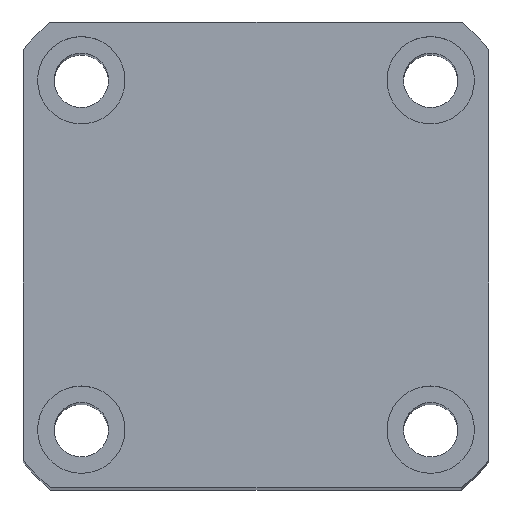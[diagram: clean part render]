
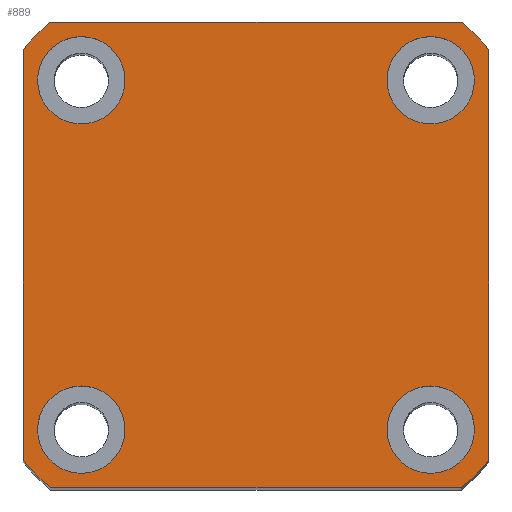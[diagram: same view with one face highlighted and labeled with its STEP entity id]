
A CAD part, top view. The second image highlights one B-rep face of the part: STEP entity #889.
In plain terms, the highlighted planar face has unit normal (0, 0, 1) as drawn and (1, 0, 0) by its records, which use the part's own axes.
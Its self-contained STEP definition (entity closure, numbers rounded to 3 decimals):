
#48 = CIRCLE ( 'NONE', #5477, 4.5 ) ;
#120 = ORIENTED_EDGE ( 'NONE', *, *, #2710, .T. ) ;
#153 = CARTESIAN_POINT ( 'NONE',  ( 125., 18., 18. ) ) ;
#170 = DIRECTION ( 'NONE',  ( 1., 0., 0. ) ) ;
#219 = ORIENTED_EDGE ( 'NONE', *, *, #5464, .F. ) ;
#247 = VERTEX_POINT ( 'NONE', #4443 ) ;
#268 = CARTESIAN_POINT ( 'NONE',  ( 125., -24., 24. ) ) ;
#269 = DIRECTION ( 'NONE',  ( 0., 0., -1. ) ) ;
#284 = ORIENTED_EDGE ( 'NONE', *, *, #6028, .F. ) ;
#423 = CARTESIAN_POINT ( 'NONE',  ( 125., 0., 0. ) ) ;
#511 = AXIS2_PLACEMENT_3D ( 'NONE', #3924, #170, #4511 ) ;
#545 = VERTEX_POINT ( 'NONE', #7750 ) ;
#554 = ORIENTED_EDGE ( 'NONE', *, *, #1791, .F. ) ;
#614 = FACE_BOUND ( 'NONE', #3714, .T. ) ;
#633 = VERTEX_POINT ( 'NONE', #1214 ) ;
#652 = ORIENTED_EDGE ( 'NONE', *, *, #770, .T. ) ;
#661 = VERTEX_POINT ( 'NONE', #3248 ) ;
#757 = DIRECTION ( 'NONE',  ( 0., 0., -1. ) ) ;
#766 = CARTESIAN_POINT ( 'NONE',  ( 125., 0., 0. ) ) ;
#770 = EDGE_CURVE ( 'NONE', #7634, #2930, #2932, .T. ) ;
#870 = DIRECTION ( 'NONE',  ( 0., 0., -1. ) ) ;
#889 = ADVANCED_FACE ( 'NONE', ( #5529, #614, #3970, #7159, #2308 ), #3796, .T. ) ;
#945 = DIRECTION ( 'NONE',  ( 1., 0., 0. ) ) ;
#1027 = DIRECTION ( 'NONE',  ( 0., 0., -1. ) ) ;
#1074 = EDGE_CURVE ( 'NONE', #7715, #2425, #4243, .T. ) ;
#1091 = CARTESIAN_POINT ( 'NONE',  ( 125., 18., 22.5 ) ) ;
#1120 = AXIS2_PLACEMENT_3D ( 'NONE', #423, #4753, #1027 ) ;
#1188 = AXIS2_PLACEMENT_3D ( 'NONE', #7655, #4032, #269 ) ;
#1208 = CARTESIAN_POINT ( 'NONE',  ( 125., 18., -13.5 ) ) ;
#1214 = CARTESIAN_POINT ( 'NONE',  ( 125., -18., 13.5 ) ) ;
#1332 = CARTESIAN_POINT ( 'NONE',  ( 125., -18., 18. ) ) ;
#1421 = ORIENTED_EDGE ( 'NONE', *, *, #4785, .T. ) ;
#1452 = AXIS2_PLACEMENT_3D ( 'NONE', #2675, #6883, #3291 ) ;
#1457 = VERTEX_POINT ( 'NONE', #6593 ) ;
#1465 = CIRCLE ( 'NONE', #1452, 32. ) ;
#1568 = CIRCLE ( 'NONE', #511, 4.5 ) ;
#1615 = AXIS2_PLACEMENT_3D ( 'NONE', #2157, #6389, #2829 ) ;
#1658 = CIRCLE ( 'NONE', #7717, 4.5 ) ;
#1791 = EDGE_CURVE ( 'NONE', #2022, #1457, #1568, .T. ) ;
#1985 = DIRECTION ( 'NONE',  ( 0., 0., -1. ) ) ;
#2022 = VERTEX_POINT ( 'NONE', #3009 ) ;
#2146 = ORIENTED_EDGE ( 'NONE', *, *, #7099, .F. ) ;
#2157 = CARTESIAN_POINT ( 'NONE',  ( 125., -18., 18. ) ) ;
#2188 = CIRCLE ( 'NONE', #7670, 4.5 ) ;
#2308 = FACE_OUTER_BOUND ( 'NONE', #2557, .T. ) ;
#2372 = ORIENTED_EDGE ( 'NONE', *, *, #4798, .T. ) ;
#2390 = LINE ( 'NONE', #4655, #7232 ) ;
#2425 = VERTEX_POINT ( 'NONE', #1091 ) ;
#2503 = CARTESIAN_POINT ( 'NONE',  ( 125., 18., -18. ) ) ;
#2557 = EDGE_LOOP ( 'NONE', ( #652, #120, #6841, #2372, #1421, #3061, #6587, #3090 ) ) ;
#2637 = CARTESIAN_POINT ( 'NONE',  ( 125., 18., 13.5 ) ) ;
#2648 = CARTESIAN_POINT ( 'NONE',  ( 125., 24., -24. ) ) ;
#2662 = DIRECTION ( 'NONE',  ( 0., 0., 1. ) ) ;
#2675 = CARTESIAN_POINT ( 'NONE',  ( 125., 0., 0. ) ) ;
#2688 = ORIENTED_EDGE ( 'NONE', *, *, #1074, .F. ) ;
#2710 = EDGE_CURVE ( 'NONE', #2930, #4356, #3790, .T. ) ;
#2784 = AXIS2_PLACEMENT_3D ( 'NONE', #153, #4492, #757 ) ;
#2819 = CIRCLE ( 'NONE', #7554, 4.5 ) ;
#2829 = DIRECTION ( 'NONE',  ( 0., 0., -1. ) ) ;
#2930 = VERTEX_POINT ( 'NONE', #7507 ) ;
#2932 = LINE ( 'NONE', #2648, #4703 ) ;
#2960 = EDGE_CURVE ( 'NONE', #5785, #247, #5807, .T. ) ;
#2961 = EDGE_LOOP ( 'NONE', ( #2688, #2146 ) ) ;
#3009 = CARTESIAN_POINT ( 'NONE',  ( 125., -18., -22.5 ) ) ;
#3061 = ORIENTED_EDGE ( 'NONE', *, *, #7077, .T. ) ;
#3090 = ORIENTED_EDGE ( 'NONE', *, *, #5987, .T. ) ;
#3139 = DIRECTION ( 'NONE',  ( 0., 0., -1. ) ) ;
#3248 = CARTESIAN_POINT ( 'NONE',  ( 125., -21.166, 24. ) ) ;
#3291 = DIRECTION ( 'NONE',  ( 0., 0., -1. ) ) ;
#3386 = CIRCLE ( 'NONE', #2784, 4.5 ) ;
#3489 = CIRCLE ( 'NONE', #1615, 4.5 ) ;
#3545 = AXIS2_PLACEMENT_3D ( 'NONE', #3958, #4048, #4242 ) ;
#3603 = CARTESIAN_POINT ( 'NONE',  ( 125., 18., -18. ) ) ;
#3641 = CARTESIAN_POINT ( 'NONE',  ( 125., -18., -18. ) ) ;
#3714 = EDGE_LOOP ( 'NONE', ( #284, #5373 ) ) ;
#3790 = CIRCLE ( 'NONE', #1120, 32. ) ;
#3796 = PLANE ( 'NONE',  #4477 ) ;
#3856 = VECTOR ( 'NONE', #2662, 1000. ) ;
#3888 = DIRECTION ( 'NONE',  ( 1., 0., 0. ) ) ;
#3924 = CARTESIAN_POINT ( 'NONE',  ( 125., -18., -18. ) ) ;
#3958 = CARTESIAN_POINT ( 'NONE',  ( 125., 18., 18. ) ) ;
#3962 = CARTESIAN_POINT ( 'NONE',  ( 125., 18., -22.5 ) ) ;
#3970 = FACE_BOUND ( 'NONE', #6113, .T. ) ;
#4014 = CARTESIAN_POINT ( 'NONE',  ( 125., 24., 21.166 ) ) ;
#4032 = DIRECTION ( 'NONE',  ( 1., 0., 0. ) ) ;
#4043 = ORIENTED_EDGE ( 'NONE', *, *, #4209, .F. ) ;
#4048 = DIRECTION ( 'NONE',  ( 1., 0., 0. ) ) ;
#4209 = EDGE_CURVE ( 'NONE', #5497, #6447, #1658, .T. ) ;
#4213 = DIRECTION ( 'NONE',  ( 0., 0., -1. ) ) ;
#4242 = DIRECTION ( 'NONE',  ( 0., 0., -1. ) ) ;
#4243 = CIRCLE ( 'NONE', #3545, 4.5 ) ;
#4244 = DIRECTION ( 'NONE',  ( 0., 0., -1. ) ) ;
#4245 = VECTOR ( 'NONE', #870, 1000. ) ;
#4299 = AXIS2_PLACEMENT_3D ( 'NONE', #4677, #945, #5269 ) ;
#4356 = VERTEX_POINT ( 'NONE', #4886 ) ;
#4443 = CARTESIAN_POINT ( 'NONE',  ( 125., -24., -21.166 ) ) ;
#4477 = AXIS2_PLACEMENT_3D ( 'NONE', #766, #3888, #6474 ) ;
#4492 = DIRECTION ( 'NONE',  ( 1., 0., 0. ) ) ;
#4511 = DIRECTION ( 'NONE',  ( 0., 0., -1. ) ) ;
#4655 = CARTESIAN_POINT ( 'NONE',  ( 125., 24., 24. ) ) ;
#4677 = CARTESIAN_POINT ( 'NONE',  ( 125., 0., 0. ) ) ;
#4703 = VECTOR ( 'NONE', #6514, 1000. ) ;
#4753 = DIRECTION ( 'NONE',  ( 1., 0., 0. ) ) ;
#4785 = EDGE_CURVE ( 'NONE', #545, #661, #2390, .T. ) ;
#4798 = EDGE_CURVE ( 'NONE', #7201, #545, #7046, .T. ) ;
#4886 = CARTESIAN_POINT ( 'NONE',  ( 125., 24., -21.166 ) ) ;
#4894 = CARTESIAN_POINT ( 'NONE',  ( 125., -21.166, -24. ) ) ;
#5158 = EDGE_CURVE ( 'NONE', #1457, #2022, #48, .T. ) ;
#5243 = CIRCLE ( 'NONE', #1188, 32. ) ;
#5269 = DIRECTION ( 'NONE',  ( 0., 0., -1. ) ) ;
#5276 = CARTESIAN_POINT ( 'NONE',  ( 125., -18., 22.5 ) ) ;
#5373 = ORIENTED_EDGE ( 'NONE', *, *, #7698, .F. ) ;
#5464 = EDGE_CURVE ( 'NONE', #6447, #5497, #2819, .T. ) ;
#5477 = AXIS2_PLACEMENT_3D ( 'NONE', #3641, #7882, #4244 ) ;
#5497 = VERTEX_POINT ( 'NONE', #1208 ) ;
#5529 = FACE_BOUND ( 'NONE', #7093, .T. ) ;
#5645 = DIRECTION ( 'NONE',  ( 1., 0., 0. ) ) ;
#5747 = ORIENTED_EDGE ( 'NONE', *, *, #5158, .F. ) ;
#5785 = VERTEX_POINT ( 'NONE', #7454 ) ;
#5807 = LINE ( 'NONE', #268, #4245 ) ;
#5987 = EDGE_CURVE ( 'NONE', #247, #7634, #5243, .T. ) ;
#6028 = EDGE_CURVE ( 'NONE', #633, #6104, #3489, .T. ) ;
#6104 = VERTEX_POINT ( 'NONE', #5276 ) ;
#6113 = EDGE_LOOP ( 'NONE', ( #219, #4043 ) ) ;
#6389 = DIRECTION ( 'NONE',  ( 1., 0., 0. ) ) ;
#6447 = VERTEX_POINT ( 'NONE', #3962 ) ;
#6474 = DIRECTION ( 'NONE',  ( 0., 0., -1. ) ) ;
#6514 = DIRECTION ( 'NONE',  ( 0., 1., 0. ) ) ;
#6587 = ORIENTED_EDGE ( 'NONE', *, *, #2960, .T. ) ;
#6593 = CARTESIAN_POINT ( 'NONE',  ( 125., -18., -13.5 ) ) ;
#6705 = DIRECTION ( 'NONE',  ( 1., 0., 0. ) ) ;
#6841 = ORIENTED_EDGE ( 'NONE', *, *, #7728, .T. ) ;
#6842 = LINE ( 'NONE', #7485, #3856 ) ;
#6883 = DIRECTION ( 'NONE',  ( 1., 0., 0. ) ) ;
#7046 = CIRCLE ( 'NONE', #4299, 32. ) ;
#7077 = EDGE_CURVE ( 'NONE', #661, #5785, #1465, .T. ) ;
#7085 = DIRECTION ( 'NONE',  ( 0., -1., 0. ) ) ;
#7093 = EDGE_LOOP ( 'NONE', ( #554, #5747 ) ) ;
#7099 = EDGE_CURVE ( 'NONE', #2425, #7715, #3386, .T. ) ;
#7159 = FACE_BOUND ( 'NONE', #2961, .T. ) ;
#7201 = VERTEX_POINT ( 'NONE', #4014 ) ;
#7232 = VECTOR ( 'NONE', #7085, 1000. ) ;
#7454 = CARTESIAN_POINT ( 'NONE',  ( 125., -24., 21.166 ) ) ;
#7485 = CARTESIAN_POINT ( 'NONE',  ( 125., 24., 24. ) ) ;
#7507 = CARTESIAN_POINT ( 'NONE',  ( 125., 21.166, -24. ) ) ;
#7554 = AXIS2_PLACEMENT_3D ( 'NONE', #2503, #6705, #3139 ) ;
#7634 = VERTEX_POINT ( 'NONE', #4894 ) ;
#7655 = CARTESIAN_POINT ( 'NONE',  ( 125., 0., 0. ) ) ;
#7670 = AXIS2_PLACEMENT_3D ( 'NONE', #1332, #5645, #1985 ) ;
#7698 = EDGE_CURVE ( 'NONE', #6104, #633, #2188, .T. ) ;
#7715 = VERTEX_POINT ( 'NONE', #2637 ) ;
#7717 = AXIS2_PLACEMENT_3D ( 'NONE', #3603, #7835, #4213 ) ;
#7728 = EDGE_CURVE ( 'NONE', #4356, #7201, #6842, .T. ) ;
#7750 = CARTESIAN_POINT ( 'NONE',  ( 125., 21.166, 24. ) ) ;
#7835 = DIRECTION ( 'NONE',  ( 1., 0., 0. ) ) ;
#7882 = DIRECTION ( 'NONE',  ( 1., 0., 0. ) ) ;
